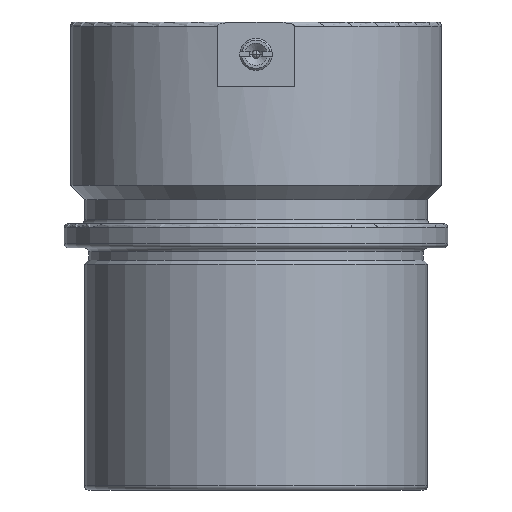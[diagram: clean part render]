
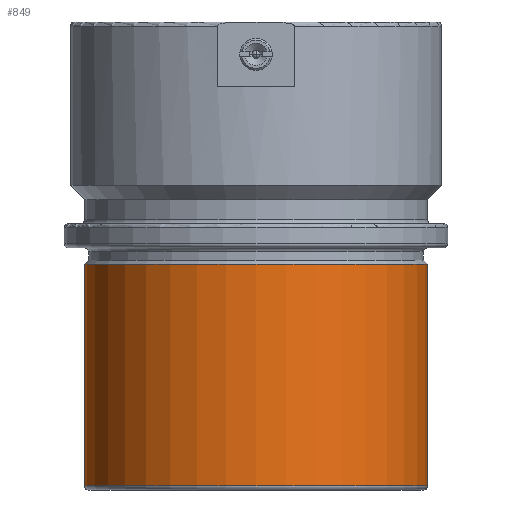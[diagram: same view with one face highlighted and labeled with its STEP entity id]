
A CAD part, front view. The second image highlights one B-rep face of the part: STEP entity #849.
In plain terms, the highlighted cylindrical face has radius 42.5 mm (diameter 85 mm), a partial arc.
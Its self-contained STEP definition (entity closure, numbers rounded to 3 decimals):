
#715=CARTESIAN_POINT('Vertex',(-42.5,0.,-59.)) ;
#722=CARTESIAN_POINT('Vertex',(42.5,0.,-59.)) ;
#742=CARTESIAN_POINT('Axis2P3D Location',(0.,0.,-59.)) ;
#807=CARTESIAN_POINT('Line Origine',(-42.5,0.,56.)) ;
#811=CARTESIAN_POINT('Vertex',(-42.5,0.,-4.)) ;
#818=CARTESIAN_POINT('Vertex',(42.5,0.,-4.)) ;
#821=CARTESIAN_POINT('Line Origine',(42.5,0.,56.)) ;
#833=CARTESIAN_POINT('Axis2P3D Location',(0.,0.,56.)) ;
#838=CARTESIAN_POINT('Axis2P3D Location',(0.,0.,-4.)) ;
#743=DIRECTION('Axis2P3D Direction',(0.,-0.,1.)) ;
#808=DIRECTION('Vector Direction',(0.,0.,1.)) ;
#822=DIRECTION('Vector Direction',(0.,0.,1.)) ;
#834=DIRECTION('Axis2P3D Direction',(0.,-0.,1.)) ;
#835=DIRECTION('Axis2P3D XDirection',(-1.,0.,-0.)) ;
#839=DIRECTION('Axis2P3D Direction',(0.,-0.,1.)) ;
#744=AXIS2_PLACEMENT_3D('Circle Axis2P3D',#742,#743,$) ;
#836=AXIS2_PLACEMENT_3D('Cylinder Axis2P3D',#833,#834,#835) ;
#840=AXIS2_PLACEMENT_3D('Circle Axis2P3D',#838,#839,$) ;
#844=ORIENTED_EDGE('',*,*,#813,.F.) ;
#845=ORIENTED_EDGE('',*,*,#746,.T.) ;
#846=ORIENTED_EDGE('',*,*,#825,.T.) ;
#847=ORIENTED_EDGE('',*,*,#842,.F.) ;
#809=VECTOR('Line Direction',#808,1.) ;
#823=VECTOR('Line Direction',#822,1.) ;
#849=ADVANCED_FACE('744-63 sol1',(#848),#837,.T.) ;
#745=CIRCLE('generated circle',#744,42.5) ;
#841=CIRCLE('generated circle',#840,42.5) ;
#837=CYLINDRICAL_SURFACE('generated cylinder',#836,42.5) ;
#746=EDGE_CURVE('',#716,#723,#745,.T.) ;
#813=EDGE_CURVE('',#716,#812,#810,.T.) ;
#825=EDGE_CURVE('',#723,#819,#824,.T.) ;
#842=EDGE_CURVE('',#812,#819,#841,.T.) ;
#843=EDGE_LOOP('',(#844,#845,#846,#847)) ;
#848=FACE_OUTER_BOUND('',#843,.T.) ;
#810=LINE('Line',#807,#809) ;
#824=LINE('Line',#821,#823) ;
#716=VERTEX_POINT('',#715) ;
#723=VERTEX_POINT('',#722) ;
#812=VERTEX_POINT('',#811) ;
#819=VERTEX_POINT('',#818) ;
